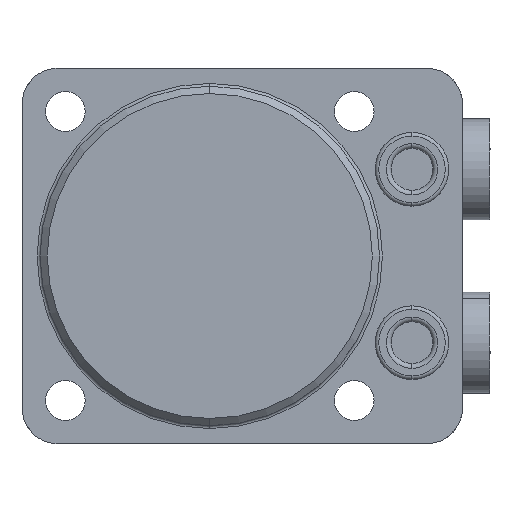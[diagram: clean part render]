
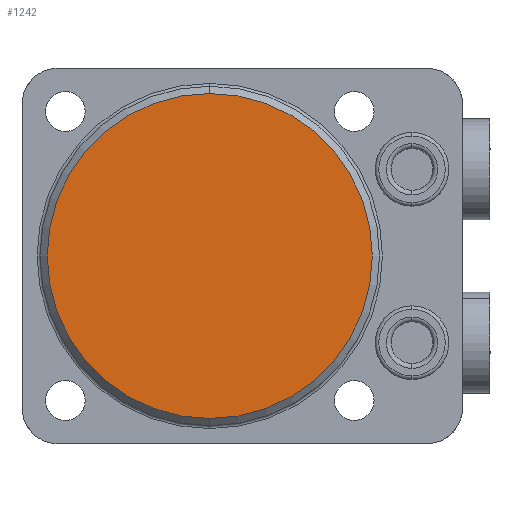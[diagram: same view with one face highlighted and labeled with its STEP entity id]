
A CAD part, front view. The second image highlights one B-rep face of the part: STEP entity #1242.
In plain terms, the highlighted planar face has unit normal (0, -1, 0).
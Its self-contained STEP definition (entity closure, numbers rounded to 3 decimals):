
#660=PLANE('',#3589);
#1242=ADVANCED_FACE('',(#1411),#660,.F.);
#1411=FACE_OUTER_BOUND('',#1594,.T.);
#1594=EDGE_LOOP('',(#2215,#2216));
#2215=ORIENTED_EDGE('',*,*,#3021,.T.);
#2216=ORIENTED_EDGE('',*,*,#2962,.T.);
#2640=VERTEX_POINT('',#5293);
#2641=VERTEX_POINT('',#5294);
#2962=EDGE_CURVE('',#2640,#2641,#3226,.T.);
#3021=EDGE_CURVE('',#2641,#2640,#3247,.T.);
#3226=CIRCLE('',#3556,22.5);
#3247=CIRCLE('',#3588,22.5);
#3556=AXIS2_PLACEMENT_3D('',#5292,#4337,#4338);
#3588=AXIS2_PLACEMENT_3D('',#5484,#4419,#4420);
#3589=AXIS2_PLACEMENT_3D('',#5485,#4421,#4422);
#4337=DIRECTION('',(0.,-1.,0.));
#4338=DIRECTION('',(0.,0.,1.));
#4419=DIRECTION('',(0.,-1.,0.));
#4420=DIRECTION('',(0.,0.,1.));
#4421=DIRECTION('',(0.,1.,0.));
#4422=DIRECTION('',(0.,0.,-1.));
#5292=CARTESIAN_POINT('',(0.,-32.,0.));
#5293=CARTESIAN_POINT('',(0.,-32.,-22.5));
#5294=CARTESIAN_POINT('',(0.,-32.,22.5));
#5484=CARTESIAN_POINT('',(0.,-32.,0.));
#5485=CARTESIAN_POINT('',(0.,-32.,0.));
